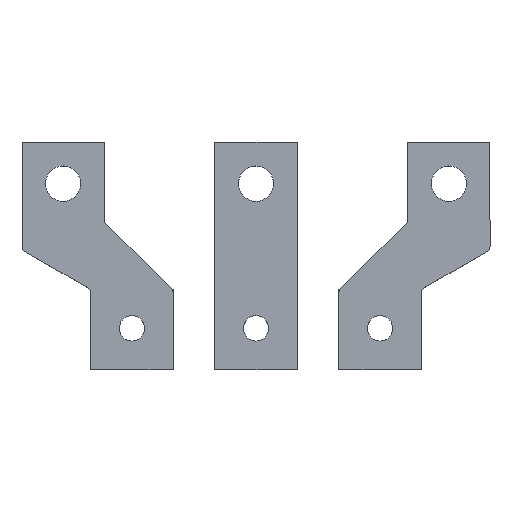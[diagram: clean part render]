
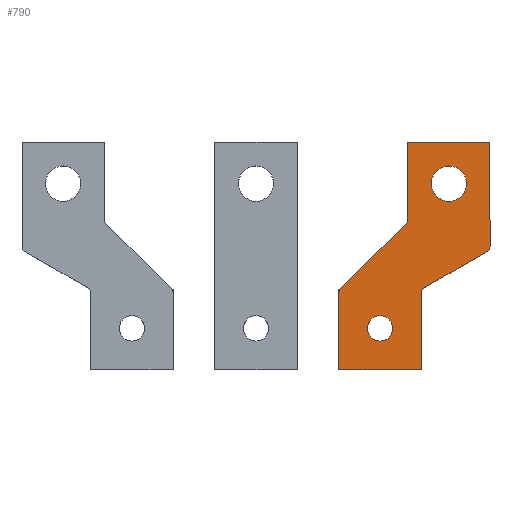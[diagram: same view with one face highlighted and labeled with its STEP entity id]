
A CAD part, top view. The second image highlights one B-rep face of the part: STEP entity #790.
In plain terms, the highlighted planar face has unit normal (0, 0, 1).
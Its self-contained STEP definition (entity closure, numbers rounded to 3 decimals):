
#4 = AXIS2_PLACEMENT_3D ( 'NONE', #727, #736, #199 ) ;
#14 = CARTESIAN_POINT ( 'NONE',  ( 63.6, 165.996, 43.8 ) ) ;
#18 = VERTEX_POINT ( 'NONE', #3269 ) ;
#30 = ORIENTED_EDGE ( 'NONE', *, *, #2730, .T. ) ;
#42 = EDGE_CURVE ( 'NONE', #1677, #2032, #376, .T. ) ;
#62 = DIRECTION ( 'NONE',  ( 1., 0., 0. ) ) ;
#68 = EDGE_LOOP ( 'NONE', ( #2365, #1765 ) ) ;
#149 = EDGE_CURVE ( 'NONE', #312, #1495, #3005, .T. ) ;
#183 = CARTESIAN_POINT ( 'NONE',  ( 84.9, 180.996, 43.8 ) ) ;
#199 = DIRECTION ( 'NONE',  ( 1., 0., 0. ) ) ;
#236 = DIRECTION ( 'NONE',  ( 0., -1., 0. ) ) ;
#248 = AXIS2_PLACEMENT_3D ( 'NONE', #1853, #2361, #62 ) ;
#275 = VECTOR ( 'NONE', #708, 1000. ) ;
#311 = CARTESIAN_POINT ( 'NONE',  ( 49.6, 113.496, 43.8 ) ) ;
#312 = VERTEX_POINT ( 'NONE', #819 ) ;
#371 = DIRECTION ( 'NONE',  ( 1., 0., 0. ) ) ;
#373 = DIRECTION ( 'NONE',  ( 0., 0., 1. ) ) ;
#376 = CIRCLE ( 'NONE', #1134, 2. ) ;
#377 = CARTESIAN_POINT ( 'NONE',  ( 84.9, 143.148, 43.8 ) ) ;
#380 = ORIENTED_EDGE ( 'NONE', *, *, #2516, .F. ) ;
#392 = ORIENTED_EDGE ( 'NONE', *, *, #525, .T. ) ;
#399 = ORIENTED_EDGE ( 'NONE', *, *, #1876, .T. ) ;
#438 = ORIENTED_EDGE ( 'NONE', *, *, #1285, .T. ) ;
#449 = VECTOR ( 'NONE', #2733, 1000. ) ;
#518 = EDGE_CURVE ( 'NONE', #2503, #1223, #738, .T. ) ;
#525 = EDGE_CURVE ( 'NONE', #551, #2524, #1975, .T. ) ;
#536 = DIRECTION ( 'NONE',  ( 0.865, 0.502, 0. ) ) ;
#551 = VERTEX_POINT ( 'NONE', #2505 ) ;
#584 = VECTOR ( 'NONE', #3077, 1000. ) ;
#641 = EDGE_CURVE ( 'NONE', #18, #2503, #1559, .T. ) ;
#645 = CARTESIAN_POINT ( 'NONE',  ( 70., 165.996, 43.8 ) ) ;
#687 = ORIENTED_EDGE ( 'NONE', *, *, #2650, .F. ) ;
#708 = DIRECTION ( 'NONE',  ( -1., 0., 0. ) ) ;
#727 = CARTESIAN_POINT ( 'NONE',  ( 32.1, 126.655, 43.8 ) ) ;
#731 = EDGE_CURVE ( 'NONE', #2032, #1485, #2647, .T. ) ;
#736 = DIRECTION ( 'NONE',  ( 0., 0., 1. ) ) ;
#738 = CIRCLE ( 'NONE', #4, 2. ) ;
#774 = AXIS2_PLACEMENT_3D ( 'NONE', #1874, #373, #2070 ) ;
#790 = ADVANCED_FACE ( 'NONE', ( #1090, #938, #3169 ), #1054, .T. ) ;
#805 = LINE ( 'NONE', #377, #1274 ) ;
#819 = CARTESIAN_POINT ( 'NONE',  ( 55.1, 180.996, 43.8 ) ) ;
#824 = CARTESIAN_POINT ( 'NONE',  ( 82.9, 143.148, 43.8 ) ) ;
#872 = VERTEX_POINT ( 'NONE', #1407 ) ;
#874 = CARTESIAN_POINT ( 'NONE',  ( 59.9, 98.496, 43.8 ) ) ;
#938 = FACE_BOUND ( 'NONE', #68, .T. ) ;
#948 = ORIENTED_EDGE ( 'NONE', *, *, #641, .T. ) ;
#1013 = EDGE_CURVE ( 'NONE', #2593, #1959, #1283, .T. ) ;
#1054 = PLANE ( 'NONE',  #774 ) ;
#1071 = DIRECTION ( 'NONE',  ( 1., 0., 0. ) ) ;
#1090 = FACE_BOUND ( 'NONE', #2706, .T. ) ;
#1113 = EDGE_CURVE ( 'NONE', #1223, #551, #1323, .T. ) ;
#1129 = VERTEX_POINT ( 'NONE', #1282 ) ;
#1133 = VECTOR ( 'NONE', #236, 1000. ) ;
#1134 = AXIS2_PLACEMENT_3D ( 'NONE', #2489, #2006, #3009 ) ;
#1223 = VERTEX_POINT ( 'NONE', #2559 ) ;
#1225 = CARTESIAN_POINT ( 'NONE',  ( 45., 113.496, 43.8 ) ) ;
#1265 = VERTEX_POINT ( 'NONE', #1796 ) ;
#1274 = VECTOR ( 'NONE', #2418, 1000. ) ;
#1282 = CARTESIAN_POINT ( 'NONE',  ( 76.4, 165.996, 43.8 ) ) ;
#1283 = CIRCLE ( 'NONE', #1905, 4.6 ) ;
#1285 = EDGE_CURVE ( 'NONE', #1485, #872, #1669, .T. ) ;
#1323 = LINE ( 'NONE', #2568, #2722 ) ;
#1407 = CARTESIAN_POINT ( 'NONE',  ( 84.9, 143.148, 43.8 ) ) ;
#1485 = VERTEX_POINT ( 'NONE', #2313 ) ;
#1495 = VERTEX_POINT ( 'NONE', #1760 ) ;
#1559 = LINE ( 'NONE', #3049, #584 ) ;
#1607 = AXIS2_PLACEMENT_3D ( 'NONE', #2092, #1826, #2645 ) ;
#1647 = DIRECTION ( 'NONE',  ( 1., 0., 0. ) ) ;
#1667 = DIRECTION ( 'NONE',  ( 0., 0., 1. ) ) ;
#1669 = CIRCLE ( 'NONE', #1785, 2. ) ;
#1677 = VERTEX_POINT ( 'NONE', #2063 ) ;
#1679 = CIRCLE ( 'NONE', #1607, 6.4 ) ;
#1701 = DIRECTION ( 'NONE',  ( 0., 0., 1. ) ) ;
#1705 = VECTOR ( 'NONE', #536, 1000. ) ;
#1760 = CARTESIAN_POINT ( 'NONE',  ( 55.1, 152.836, 43.8 ) ) ;
#1762 = VERTEX_POINT ( 'NONE', #14 ) ;
#1765 = ORIENTED_EDGE ( 'NONE', *, *, #1900, .F. ) ;
#1779 = VECTOR ( 'NONE', #2642, 1000. ) ;
#1780 = CARTESIAN_POINT ( 'NONE',  ( 60.897, 128.074, 43.8 ) ) ;
#1785 = AXIS2_PLACEMENT_3D ( 'NONE', #824, #2359, #1071 ) ;
#1796 = CARTESIAN_POINT ( 'NONE',  ( 84.9, 180.996, 43.8 ) ) ;
#1826 = DIRECTION ( 'NONE',  ( 0., 0., 1. ) ) ;
#1853 = CARTESIAN_POINT ( 'NONE',  ( 45., 113.496, 43.8 ) ) ;
#1872 = CARTESIAN_POINT ( 'NONE',  ( 60.897, 128.074, 43.8 ) ) ;
#1874 = CARTESIAN_POINT ( 'NONE',  ( 32.1, 126.655, 43.8 ) ) ;
#1876 = EDGE_CURVE ( 'NONE', #2524, #1677, #2390, .T. ) ;
#1879 = ORIENTED_EDGE ( 'NONE', *, *, #518, .T. ) ;
#1900 = EDGE_CURVE ( 'NONE', #1959, #2593, #2643, .T. ) ;
#1905 = AXIS2_PLACEMENT_3D ( 'NONE', #1225, #1701, #1955 ) ;
#1955 = DIRECTION ( 'NONE',  ( 1., 0., 0. ) ) ;
#1959 = VERTEX_POINT ( 'NONE', #2099 ) ;
#1975 = LINE ( 'NONE', #2204, #449 ) ;
#2006 = DIRECTION ( 'NONE',  ( 0., 0., -1. ) ) ;
#2032 = VERTEX_POINT ( 'NONE', #1872 ) ;
#2034 = ORIENTED_EDGE ( 'NONE', *, *, #731, .T. ) ;
#2046 = AXIS2_PLACEMENT_3D ( 'NONE', #645, #1667, #1647 ) ;
#2063 = CARTESIAN_POINT ( 'NONE',  ( 59.9, 126.343, 43.8 ) ) ;
#2070 = DIRECTION ( 'NONE',  ( 1., 0., 0. ) ) ;
#2092 = CARTESIAN_POINT ( 'NONE',  ( 70., 165.996, 43.8 ) ) ;
#2099 = CARTESIAN_POINT ( 'NONE',  ( 40.4, 113.496, 43.8 ) ) ;
#2102 = EDGE_CURVE ( 'NONE', #1495, #18, #2791, .T. ) ;
#2106 = CARTESIAN_POINT ( 'NONE',  ( 59.9, 98.496, 43.8 ) ) ;
#2156 = ORIENTED_EDGE ( 'NONE', *, *, #149, .T. ) ;
#2204 = CARTESIAN_POINT ( 'NONE',  ( 30.1, 98.496, 43.8 ) ) ;
#2233 = AXIS2_PLACEMENT_3D ( 'NONE', #2933, #2391, #371 ) ;
#2237 = ORIENTED_EDGE ( 'NONE', *, *, #2102, .T. ) ;
#2248 = ORIENTED_EDGE ( 'NONE', *, *, #1113, .T. ) ;
#2313 = CARTESIAN_POINT ( 'NONE',  ( 83.903, 141.418, 43.8 ) ) ;
#2347 = LINE ( 'NONE', #183, #275 ) ;
#2359 = DIRECTION ( 'NONE',  ( 0., 0., 1. ) ) ;
#2361 = DIRECTION ( 'NONE',  ( 0., 0., 1. ) ) ;
#2365 = ORIENTED_EDGE ( 'NONE', *, *, #1013, .F. ) ;
#2390 = LINE ( 'NONE', #874, #1779 ) ;
#2391 = DIRECTION ( 'NONE',  ( 0., 0., -1. ) ) ;
#2413 = EDGE_LOOP ( 'NONE', ( #1879, #2248, #392, #399, #2414, #2034, #438, #30, #2623, #2156, #2237, #948 ) ) ;
#2414 = ORIENTED_EDGE ( 'NONE', *, *, #42, .T. ) ;
#2418 = DIRECTION ( 'NONE',  ( 0., 1., 0. ) ) ;
#2466 = CIRCLE ( 'NONE', #2046, 6.4 ) ;
#2489 = CARTESIAN_POINT ( 'NONE',  ( 61.9, 126.343, 43.8 ) ) ;
#2503 = VERTEX_POINT ( 'NONE', #2576 ) ;
#2505 = CARTESIAN_POINT ( 'NONE',  ( 30.1, 98.496, 43.8 ) ) ;
#2516 = EDGE_CURVE ( 'NONE', #1762, #1129, #1679, .T. ) ;
#2524 = VERTEX_POINT ( 'NONE', #2106 ) ;
#2559 = CARTESIAN_POINT ( 'NONE',  ( 30.1, 126.655, 43.8 ) ) ;
#2568 = CARTESIAN_POINT ( 'NONE',  ( 30.1, 126.655, 43.8 ) ) ;
#2576 = CARTESIAN_POINT ( 'NONE',  ( 30.7, 128.084, 43.8 ) ) ;
#2593 = VERTEX_POINT ( 'NONE', #311 ) ;
#2623 = ORIENTED_EDGE ( 'NONE', *, *, #2777, .T. ) ;
#2642 = DIRECTION ( 'NONE',  ( 0., 1., 0. ) ) ;
#2643 = CIRCLE ( 'NONE', #248, 4.6 ) ;
#2645 = DIRECTION ( 'NONE',  ( 1., 0., 0. ) ) ;
#2647 = LINE ( 'NONE', #1780, #1705 ) ;
#2650 = EDGE_CURVE ( 'NONE', #1129, #1762, #2466, .T. ) ;
#2706 = EDGE_LOOP ( 'NONE', ( #687, #380 ) ) ;
#2722 = VECTOR ( 'NONE', #3058, 1000. ) ;
#2730 = EDGE_CURVE ( 'NONE', #872, #1265, #805, .T. ) ;
#2733 = DIRECTION ( 'NONE',  ( 1., 0., 0. ) ) ;
#2772 = CARTESIAN_POINT ( 'NONE',  ( 55.1, 180.996, 43.8 ) ) ;
#2777 = EDGE_CURVE ( 'NONE', #1265, #312, #2347, .T. ) ;
#2791 = CIRCLE ( 'NONE', #2233, 2. ) ;
#2933 = CARTESIAN_POINT ( 'NONE',  ( 53.1, 152.836, 43.8 ) ) ;
#3005 = LINE ( 'NONE', #2772, #1133 ) ;
#3009 = DIRECTION ( 'NONE',  ( 1., 0., 0. ) ) ;
#3049 = CARTESIAN_POINT ( 'NONE',  ( 54.5, 151.407, 43.8 ) ) ;
#3058 = DIRECTION ( 'NONE',  ( 0., -1., 0. ) ) ;
#3077 = DIRECTION ( 'NONE',  ( -0.714, -0.7, 0. ) ) ;
#3169 = FACE_OUTER_BOUND ( 'NONE', #2413, .T. ) ;
#3269 = CARTESIAN_POINT ( 'NONE',  ( 54.5, 151.407, 43.8 ) ) ;
